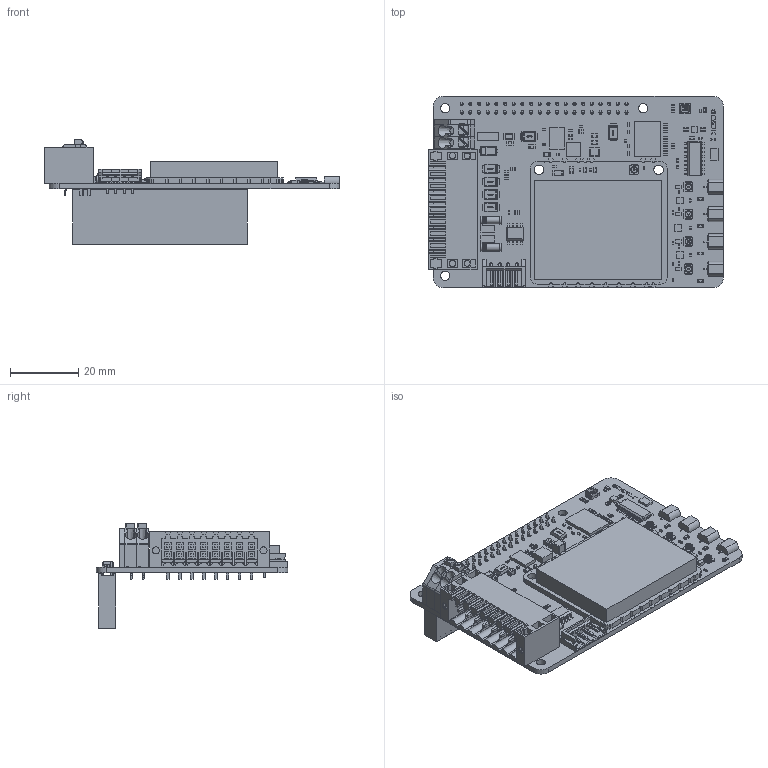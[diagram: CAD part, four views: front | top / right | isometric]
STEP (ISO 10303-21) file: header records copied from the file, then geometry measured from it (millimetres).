
FILE_DESCRIPTION(/* description */ (''),/* implementation_level */ '2;1');
FILE_NAME(/* name */ 'MetraTec RFID_HAT_0100 v1.step',/* time_stamp */ '2024-07-15T12:08:07+02:00',/* author */ (''),/* organization */ (''),/* preprocessor_version */ 'ST-DEVELOPER v20',/* originating_system */ 'Autodesk Translation Framework v13.14.0.145',/* authorisation */ '');
FILE_SCHEMA (('AUTOMOTIVE_DESIGN { 1 0 10303 214 3 1 1 }'));
Products named in the file (610): MetraTec RFID_HAT_0100; MetraTec RFID_HAT_0100_1; CAPC1005X061; CAPC1005X062; CAPC1005X60; CAPC1005X063; CAPC1005X064; CAPC1005X065; CAPC2012X145; CAPC2012X146; CAPC2012X147; CAPC2012X148; CAPC2012X149; CAPC2012X150; CAPC1005X066; CAPC1005X067; CAPC1005X068; CAPC2012X151; CAPC2012X152; CAPC2012X153; CAPC2012X154; CAPC2012X155; CAPC2012X156; CAPC3225X280; CAPC3225X281; CAPC3225X279; CAPC1005X072; CAPC1005X073; CAPC1005X074; CAPC1005X075; CAPC1005X076; CAPC1005X077; CAPC1005X078; CAPC1005X079; CAPC1005X080; CAPC1005X081; CAPC1005X082; CAPC1005X083; CAPC1005X084; CAPC1005X085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
Assembly tree (611 placements, depth 5):
  MetraTec RFID_HAT_0100
    MetraTec RFID_HAT_0100_1
      CAPC1005X061
      CAPC1005X062
      CAPC1005X60
      CAPC1005X063
      CAPC1005X064
      CAPC1005X065
      CAPC2012X145
      CAPC2012X146
      CAPC2012X147
      CAPC2012X148
      CAPC2012X149
      CAPC2012X150
      CAPC1005X066
      CAPC1005X067
      CAPC1005X068
      CAPC2012X151
      CAPC2012X152
      CAPC2012X153
      CAPC2012X154
      CAPC2012X155
      CAPC2012X156
      CAPC3225X280
      CAPC3225X281
      CAPC3225X279
      CAPC1005X072
      CAPC1005X073
      CAPC1005X074
      CAPC1005X075
      CAPC1005X076
      CAPC1005X077
      CAPC1005X078
      CAPC1005X079
      CAPC1005X080
      CAPC1005X081
      CAPC1005X082
      CAPC1005X083
      CAPC1005X084
      CAPC1005X085
      CAPC1005X086
      CAPC1005X087
      CAPC1005X088
      CAPC1005X089
      CAPC1005X090
      CAPC1005X091
      CAPC1005X092
      CAPC1005X093
      CAPC1005X094
      CAPC1005X095
      CAPC1005X096
      CAPC1005X097
      CAPC1005X098
      CAPC1005X099
      CAPC1005X100
      CAPC1005X101
      CAPC1005X102
      CAPC1005X103
      CAPC1005X104
      CAPC1005X105
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Bounding box: 86.32 x 56 x 30.6 mm (x, y, z)
Volume: 16330.1 mm3; surface area: 35956.7 mm2
Topology: 638 solids, 638 shells, 11731 faces, 28822 edges, 17769 vertices
Faces by surface type: plane 7673, cylinder 2837, sphere 817, bspline 361, torus 24, cone 19
Full cylindrical faces by diameter (mm): 0.3 x4, 0.5 x5, 0.7 x4, 0.8 x1, 0.915 x40, 1 x4, 1.2 x27, 1.3 x16, 1.65 x5, 1.7 x2, 1.8 x4, 1.9 x5, 2 x10, 2.067 x2, 2.1 x6, 2.102 x4, 2.3 x4, 2.7 x4, 2.8 x10
Entity records: 383005 total; most frequent: CARTESIAN_POINT 82028, DIRECTION 57776, ORIENTED_EDGE 55554, EDGE_CURVE 27777, LINE 21286, VECTOR 21286, AXIS2_PLACEMENT_3D 18245, VERTEX_POINT 17574
